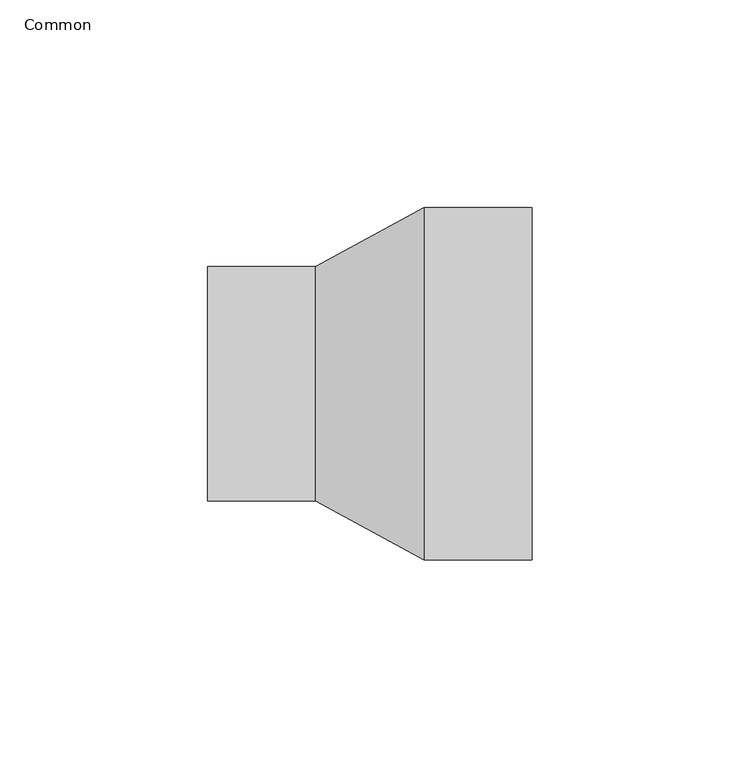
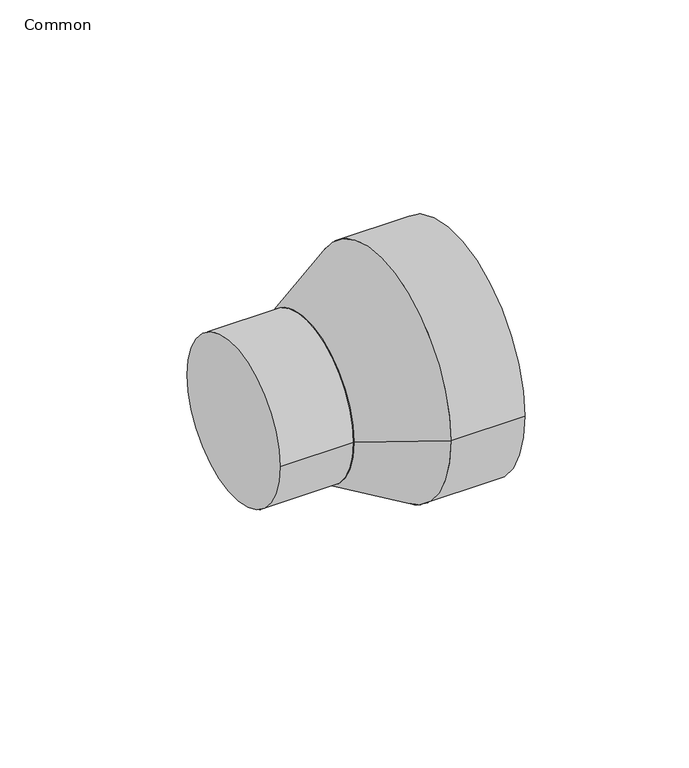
"""IFC4 building model written with IfcOpenShell, lengths in millimetres: pipe fitting geometry, 041_レジューサ : Common."""

from ifc_helpers import new_model, si_unit, point, frame, origin, origin_2d, place, context, project, spatial, polyline, circle_curve, trimmed, segment, composite_curve, outline, extrude, source, transform, mapped, element, save
from ifc_brep_helpers import plane_surface, revolved_surface, advanced_brep


def common_2df6cfe4(model_context):
    return source(origin(), model_context, "Body", "SolidModel", [
        advanced_brep(
        [(52.0333333, -42.375, 0.0), (52.0333333, 42.375, 0.0), (26.0166667, -28.25, 0.0), (26.0166667, 28.25, 0.0)],
        [
            (0, 1, circle_curve(frame((52.0333333, 0.0, 0.0), z_axis=(1.0, 0.0, 0.0), x_axis=(0.0, -1.0, 0.0)), 42.375)),
            (1, 0, circle_curve(frame((52.0333333, 0.0, 0.0), z_axis=(1.0, 0.0, 0.0), x_axis=(0.0, 1.0, 0.0)), 42.375)),
            (2, 3, circle_curve(frame((26.0166667, 0.0, 0.0), z_axis=(-1.0, 0.0, 0.0), x_axis=(0.0, 1.0, 0.0)), 28.25)),
            (3, 2, circle_curve(frame((26.0166667, 0.0, 0.0), z_axis=(-1.0, 0.0, 0.0), x_axis=(0.0, -1.0, 0.0)), 28.25)),
            (3, 1),
            (0, 2),
        ],
        [
            plane_surface(frame((52.0333333, 0.0, 0.0), z_axis=(1.0, 0.0, 0.0), x_axis=(0.0, 0.0, -1.0))),
            plane_surface(frame((26.0166667, 0.0, 0.0), z_axis=(-1.0, 0.0, 0.0), x_axis=(0.0, 0.0, -1.0))),
            revolved_surface(polyline([(26.0166667, 28.250000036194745, 0.0), (52.033333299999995, 42.375, 0.0)]), (-26.0166667, 0.0, 0.0), (1.0, 0.0, 0.0)),
            revolved_surface(polyline([(26.0166667, -28.250000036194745, 0.0), (52.033333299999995, -42.375, 0.0)]), (-26.0166667, 0.0, 0.0), (1.0, 0.0, 0.0)),
        ],
        [
            (0, [[1, 2]]),
            (1, [[3, 4]]),
            (2, [[-4, 5, -1, 6]]),
            (3, [[-3, -6, -2, -5]]),
        ],
    ),
        extrude(outline(composite_curve([segment(trimmed(circle_curve(origin_2d(), 42.375), [point((-42.375, 0.0))], [point((42.375, 0.0))], False, "CARTESIAN"), True, "CONTINUOUS"), segment(trimmed(circle_curve(origin_2d(), 42.375), [point((42.375, 0.0))], [point((-42.375, 0.0))], False, "CARTESIAN"), True, "CONTINUOUS")], self_intersect=False)), frame((52.0333333, 0.0, 0.0), z_axis=(1.0, 0.0, 0.0), x_axis=(0.0, 1.0, 0.0)), (0.0, 0.0, 1.0), 26.0166667),
        extrude(outline(composite_curve([segment(trimmed(circle_curve(origin_2d(), 28.25), [point((-28.25, 0.0))], [point((28.25, 0.0))], False, "CARTESIAN"), True, "CONTINUOUS"), segment(trimmed(circle_curve(origin_2d(), 28.25), [point((28.25, 0.0))], [point((-28.25, 0.0))], False, "CARTESIAN"), True, "CONTINUOUS")], self_intersect=False)), frame((0.0, 0.0, 0.0), z_axis=(1.0, 0.0, 0.0), x_axis=(0.0, 1.0, 0.0)), (0.0, 0.0, 1.0), 26.0166667),
    ])


if __name__ == "__main__":
    model = new_model("IFC4")
    model_context = context("Model", 3, world=origin())
    ifc_project = project(units=[si_unit("LENGTHUNIT", "METRE", prefix="MILLI")], contexts=[model_context])
    site = spatial("IfcSite", under=ifc_project)
    building = spatial("IfcBuilding", under=site)
    placement = place(None, origin())
    common_shape = common_2df6cfe4(model_context)
    element("IfcPipeFitting", 1, ObjectType="041_レジューサ : Common", at=placement, inside=building, context=model_context, shape_type="MappedRepresentation", body=[
        mapped(common_shape, transform((0.0, 0.0, 0.0), x_axis=(1.0, 0.0, 0.0), y_axis=(0.0, 1.0, 0.0), z_axis=(0.0, 0.0, 1.0))),
    ])
    save(model, "model.ifc")
